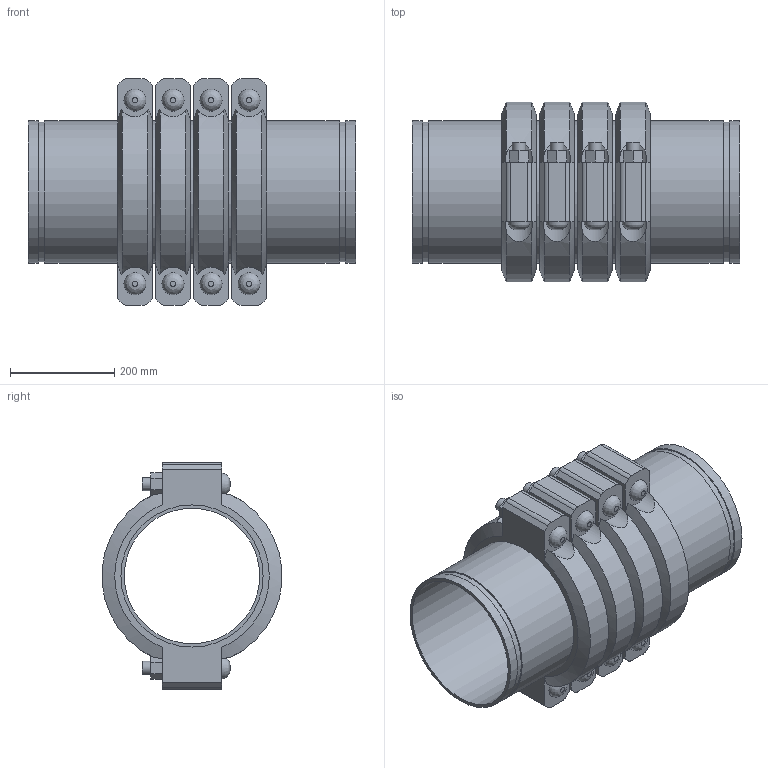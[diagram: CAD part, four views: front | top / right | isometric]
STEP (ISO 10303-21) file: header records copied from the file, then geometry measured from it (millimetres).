
FILE_DESCRIPTION(/* description */ ('VIC SS EXPANSION JOINT 4 COUPLINGS NEUTRAL STYLE 155P (OGS) (POTABLE WATER) ','CAx-IF Rec.Pracs.---Representation and Presentation of Product Manufacturing Information (PMI)---4.0---2014-10-13'),/* implementation_level */ '2;1');
FILE_NAME(/* name */ 'C:\Users\kkamble\AppData\Roaming\Autodesk\ApplicationPlugins\Victaulic.Temp\A324\Victaulic_SS_Expansion Joint_Neutral_4 Couplings_Style 155P (OGS)-Potable Water_4 Coup_Neut_10 (250).stp',/* time_stamp */ '2021-07-16T16:33:48+05:00',/* author */ ('kkamble'),/* organization */ ('Victaulic'),/* preprocessor_version */ 'ST-DEVELOPER v17.2',/* originating_system */ 'Autodesk Inventor 2019',/* authorisation */ '');
FILE_SCHEMA (('TECHNICAL_DATA_PACKAGING','PROCESS_PLANNING_SCHEMA','AP242_MANAGED_MODEL_BASED_3D_ENGINEERING_MIM_LF { 1 0 10303 442 1 1 4 }'));
Length unit declared in the file: inch
Products named in the file (4): 155P-10.0; Nipple-10.0; Nipple-10.0_1; 077-10.0
Assembly tree (9 placements, depth 2):
  155P-10.0
    Nipple-10.0  x2
    Nipple-10.0_1  x3
    077-10.0  x4
Bounding box: 628.65 x 344.9 x 435.1 mm (x, y, z)
Volume: 14756162.4 mm3; surface area: 2244884.6 mm2
Topology: 9 solids, 17 shells, 304 faces, 730 edges, 512 vertices
Faces by surface type: plane 174, cylinder 106, cone 16, bspline 8
Full cylindrical faces by diameter (mm): 25.4 x16, 27.432 x8, 260.35 x5, 264.16 x4, 268.275 x10, 273.05 x23
Entity records: 3057 total; most frequent: CARTESIAN_POINT 673, DIRECTION 473, ORIENTED_EDGE 410, EDGE_CURVE 205, AXIS2_PLACEMENT_3D 192, VERTEX_POINT 146, EDGE_LOOP 111, CIRCLE 96
